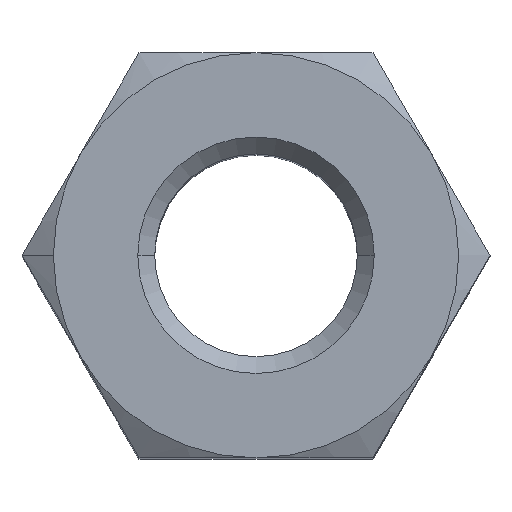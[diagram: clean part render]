
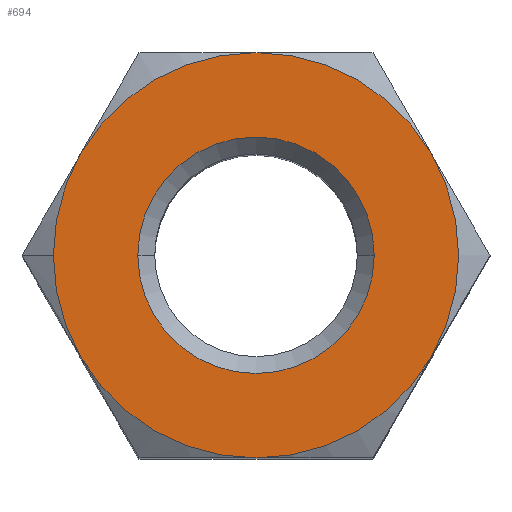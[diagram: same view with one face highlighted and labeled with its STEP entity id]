
A CAD part, top view. The second image highlights one B-rep face of the part: STEP entity #694.
In plain terms, the highlighted planar face has unit normal (0, 0, 1).
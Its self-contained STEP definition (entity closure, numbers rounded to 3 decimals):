
#4 = DIRECTION ( 'NONE',  ( 0., 0., -1. ) ) ;
#9 = DIRECTION ( 'NONE',  ( -1., 0., 0. ) ) ;
#16 = ORIENTED_EDGE ( 'NONE', *, *, #653, .T. ) ;
#22 = DIRECTION ( 'NONE',  ( 0., 0., -1. ) ) ;
#33 = ORIENTED_EDGE ( 'NONE', *, *, #415, .T. ) ;
#44 = CARTESIAN_POINT ( 'NONE',  ( 2.598, -1.5, 6. ) ) ;
#53 = ORIENTED_EDGE ( 'NONE', *, *, #413, .T. ) ;
#54 = CARTESIAN_POINT ( 'NONE',  ( 0., 0., 6. ) ) ;
#76 = EDGE_CURVE ( 'NONE', #80, #130, #93, .T. ) ;
#80 = VERTEX_POINT ( 'NONE', #207 ) ;
#86 = CARTESIAN_POINT ( 'NONE',  ( 0., -3., 6. ) ) ;
#93 = CIRCLE ( 'NONE', #455, 1.75 ) ;
#99 = EDGE_LOOP ( 'NONE', ( #33, #16, #53, #435, #337, #713, #828 ) ) ;
#103 = CARTESIAN_POINT ( 'NONE',  ( 0., 0., 6. ) ) ;
#107 = DIRECTION ( 'NONE',  ( 0., 0., 1. ) ) ;
#125 = DIRECTION ( 'NONE',  ( -1., 0., 0. ) ) ;
#127 = DIRECTION ( 'NONE',  ( -1., 0., 0. ) ) ;
#130 = VERTEX_POINT ( 'NONE', #808 ) ;
#155 = DIRECTION ( 'NONE',  ( 0., 0., 1. ) ) ;
#162 = AXIS2_PLACEMENT_3D ( 'NONE', #301, #22, #572 ) ;
#190 = CARTESIAN_POINT ( 'NONE',  ( -2.598, -1.5, 6. ) ) ;
#195 = CIRCLE ( 'NONE', #472, 3. ) ;
#204 = VERTEX_POINT ( 'NONE', #44 ) ;
#206 = CARTESIAN_POINT ( 'NONE',  ( 0., 0., 6. ) ) ;
#207 = CARTESIAN_POINT ( 'NONE',  ( -1.75, 0., 6. ) ) ;
#218 = CARTESIAN_POINT ( 'NONE',  ( 2.598, 1.5, 6. ) ) ;
#225 = CARTESIAN_POINT ( 'NONE',  ( 0., 0., 6. ) ) ;
#233 = FACE_BOUND ( 'NONE', #445, .T. ) ;
#242 = CARTESIAN_POINT ( 'NONE',  ( 0., 3., 6. ) ) ;
#247 = DIRECTION ( 'NONE',  ( -1., 0., 0. ) ) ;
#255 = AXIS2_PLACEMENT_3D ( 'NONE', #496, #4, #9 ) ;
#275 = CARTESIAN_POINT ( 'NONE',  ( -2.598, 1.5, 6. ) ) ;
#285 = AXIS2_PLACEMENT_3D ( 'NONE', #103, #714, #247 ) ;
#286 = CIRCLE ( 'NONE', #637, 3. ) ;
#295 = DIRECTION ( 'NONE',  ( -1., 0., 0. ) ) ;
#301 = CARTESIAN_POINT ( 'NONE',  ( 0., 0., 6. ) ) ;
#305 = FACE_OUTER_BOUND ( 'NONE', #99, .T. ) ;
#308 = VERTEX_POINT ( 'NONE', #275 ) ;
#315 = AXIS2_PLACEMENT_3D ( 'NONE', #321, #387, #582 ) ;
#321 = CARTESIAN_POINT ( 'NONE',  ( 0., 0., 6. ) ) ;
#336 = VERTEX_POINT ( 'NONE', #351 ) ;
#337 = ORIENTED_EDGE ( 'NONE', *, *, #774, .T. ) ;
#351 = CARTESIAN_POINT ( 'NONE',  ( -3., 0., 6. ) ) ;
#380 = CARTESIAN_POINT ( 'NONE',  ( 0., 0., 6. ) ) ;
#387 = DIRECTION ( 'NONE',  ( 0., 0., 1. ) ) ;
#390 = DIRECTION ( 'NONE',  ( 0., 0., 1. ) ) ;
#413 = EDGE_CURVE ( 'NONE', #874, #753, #569, .T. ) ;
#415 = EDGE_CURVE ( 'NONE', #308, #336, #623, .T. ) ;
#435 = ORIENTED_EDGE ( 'NONE', *, *, #875, .T. ) ;
#445 = EDGE_LOOP ( 'NONE', ( #726, #695 ) ) ;
#454 = VERTEX_POINT ( 'NONE', #218 ) ;
#455 = AXIS2_PLACEMENT_3D ( 'NONE', #604, #533, #127 ) ;
#472 = AXIS2_PLACEMENT_3D ( 'NONE', #206, #742, #483 ) ;
#481 = EDGE_CURVE ( 'NONE', #308, #627, #195, .T. ) ;
#483 = DIRECTION ( 'NONE',  ( -1., 0., 0. ) ) ;
#496 = CARTESIAN_POINT ( 'NONE',  ( 0., 0., 6. ) ) ;
#533 = DIRECTION ( 'NONE',  ( 0., 0., -1. ) ) ;
#555 = EDGE_CURVE ( 'NONE', #130, #80, #664, .T. ) ;
#569 = CIRCLE ( 'NONE', #285, 3. ) ;
#572 = DIRECTION ( 'NONE',  ( 1., 0., 0. ) ) ;
#582 = DIRECTION ( 'NONE',  ( -1., 0., 0. ) ) ;
#584 = DIRECTION ( 'NONE',  ( 0., 0., 1. ) ) ;
#592 = AXIS2_PLACEMENT_3D ( 'NONE', #225, #155, #295 ) ;
#594 = CIRCLE ( 'NONE', #761, 3. ) ;
#604 = CARTESIAN_POINT ( 'NONE',  ( 0., 0., 6. ) ) ;
#623 = CIRCLE ( 'NONE', #782, 3. ) ;
#627 = VERTEX_POINT ( 'NONE', #242 ) ;
#637 = AXIS2_PLACEMENT_3D ( 'NONE', #54, #584, #125 ) ;
#653 = EDGE_CURVE ( 'NONE', #336, #874, #797, .T. ) ;
#664 = CIRCLE ( 'NONE', #255, 1.75 ) ;
#694 = ADVANCED_FACE ( 'NONE', ( #233, #305 ), #766, .F. ) ;
#695 = ORIENTED_EDGE ( 'NONE', *, *, #76, .T. ) ;
#713 = ORIENTED_EDGE ( 'NONE', *, *, #757, .T. ) ;
#714 = DIRECTION ( 'NONE',  ( 0., 0., 1. ) ) ;
#715 = CARTESIAN_POINT ( 'NONE',  ( 0., 0., 6. ) ) ;
#721 = DIRECTION ( 'NONE',  ( -1., 0., 0. ) ) ;
#726 = ORIENTED_EDGE ( 'NONE', *, *, #555, .T. ) ;
#742 = DIRECTION ( 'NONE',  ( 0., 0., -1. ) ) ;
#753 = VERTEX_POINT ( 'NONE', #86 ) ;
#757 = EDGE_CURVE ( 'NONE', #454, #627, #594, .T. ) ;
#761 = AXIS2_PLACEMENT_3D ( 'NONE', #715, #390, #721 ) ;
#766 = PLANE ( 'NONE',  #162 ) ;
#774 = EDGE_CURVE ( 'NONE', #204, #454, #798, .T. ) ;
#782 = AXIS2_PLACEMENT_3D ( 'NONE', #380, #107, #827 ) ;
#797 = CIRCLE ( 'NONE', #592, 3. ) ;
#798 = CIRCLE ( 'NONE', #315, 3. ) ;
#808 = CARTESIAN_POINT ( 'NONE',  ( 1.75, 0., 6. ) ) ;
#827 = DIRECTION ( 'NONE',  ( -1., 0., 0. ) ) ;
#828 = ORIENTED_EDGE ( 'NONE', *, *, #481, .F. ) ;
#874 = VERTEX_POINT ( 'NONE', #190 ) ;
#875 = EDGE_CURVE ( 'NONE', #753, #204, #286, .T. ) ;
